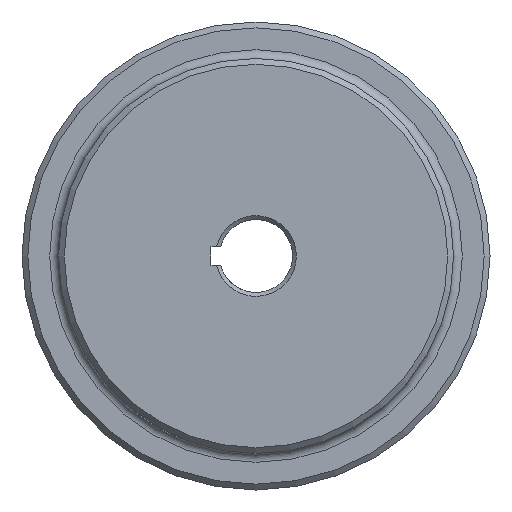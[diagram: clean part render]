
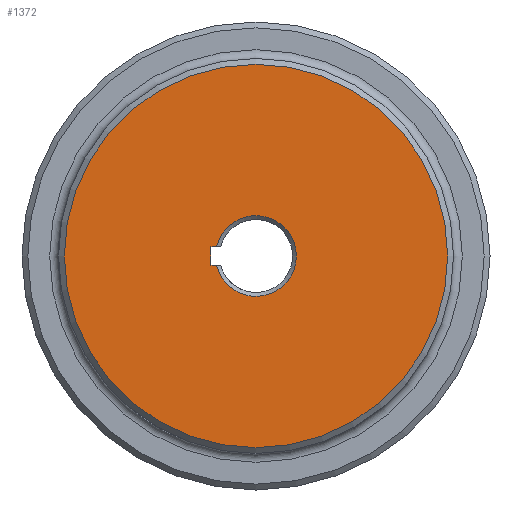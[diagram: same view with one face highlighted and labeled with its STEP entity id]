
A CAD part, left-side view. The second image highlights one B-rep face of the part: STEP entity #1372.
In plain terms, the highlighted planar face has unit normal (-1, 0, 0).
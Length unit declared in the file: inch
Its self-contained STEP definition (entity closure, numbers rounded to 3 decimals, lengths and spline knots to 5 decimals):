
#55 = DIRECTION ( 'NONE',  ( -1., 0., 0. ) ) ;
#97 = VECTOR ( 'NONE', #1086, 39.37008 ) ;
#314 = ORIENTED_EDGE ( 'NONE', *, *, #1455, .F. ) ;
#324 = CIRCLE ( 'NONE', #1008, 0.41515 ) ;
#329 = CARTESIAN_POINT ( 'NONE',  ( 0., 0., 0. ) ) ;
#371 = VECTOR ( 'NONE', #1406, 39.37008 ) ;
#415 = LINE ( 'NONE', #925, #371 ) ;
#557 = CARTESIAN_POINT ( 'NONE',  ( 0., 0.40448, -0.0935 ) ) ;
#583 = FACE_BOUND ( 'NONE', #1958, .T. ) ;
#594 = LINE ( 'NONE', #1790, #97 ) ;
#688 = CARTESIAN_POINT ( 'NONE',  ( 0., 0.40448, 0.0935 ) ) ;
#693 = CIRCLE ( 'NONE', #1732, 1.97 ) ;
#902 = CARTESIAN_POINT ( 'NONE',  ( 0., 0.46285, -0.0935 ) ) ;
#925 = CARTESIAN_POINT ( 'NONE',  ( 0., 0., 0.0935 ) ) ;
#1008 = AXIS2_PLACEMENT_3D ( 'NONE', #1168, #1077, #1023 ) ;
#1012 = ORIENTED_EDGE ( 'NONE', *, *, #2563, .F. ) ;
#1023 = DIRECTION ( 'NONE',  ( 0., 0., -1. ) ) ;
#1067 = EDGE_LOOP ( 'NONE', ( #1108 ) ) ;
#1077 = DIRECTION ( 'NONE',  ( 1., 0., 0. ) ) ;
#1086 = DIRECTION ( 'NONE',  ( 0., -1., 0. ) ) ;
#1108 = ORIENTED_EDGE ( 'NONE', *, *, #2704, .T. ) ;
#1122 = PLANE ( 'NONE',  #2467 ) ;
#1168 = CARTESIAN_POINT ( 'NONE',  ( 0., 0., 0. ) ) ;
#1176 = CARTESIAN_POINT ( 'NONE',  ( 0., 0., -1.97 ) ) ;
#1209 = VERTEX_POINT ( 'NONE', #1771 ) ;
#1222 = EDGE_CURVE ( 'NONE', #1209, #2807, #2557, .T. ) ;
#1372 = ADVANCED_FACE ( 'NONE', ( #2022, #583 ), #1122, .F. ) ;
#1403 = VERTEX_POINT ( 'NONE', #688 ) ;
#1406 = DIRECTION ( 'NONE',  ( 0., 1., 0. ) ) ;
#1455 = EDGE_CURVE ( 'NONE', #1403, #1209, #415, .T. ) ;
#1594 = VERTEX_POINT ( 'NONE', #1176 ) ;
#1612 = ORIENTED_EDGE ( 'NONE', *, *, #1684, .T. ) ;
#1630 = DIRECTION ( 'NONE',  ( 0., 0., -1. ) ) ;
#1684 = EDGE_CURVE ( 'NONE', #1403, #1845, #324, .T. ) ;
#1732 = AXIS2_PLACEMENT_3D ( 'NONE', #2207, #55, #1748 ) ;
#1737 = VECTOR ( 'NONE', #2229, 39.37008 ) ;
#1748 = DIRECTION ( 'NONE',  ( 0., 0., -1. ) ) ;
#1771 = CARTESIAN_POINT ( 'NONE',  ( 0., 0.46285, 0.0935 ) ) ;
#1790 = CARTESIAN_POINT ( 'NONE',  ( 0., 0., -0.0935 ) ) ;
#1845 = VERTEX_POINT ( 'NONE', #557 ) ;
#1908 = ORIENTED_EDGE ( 'NONE', *, *, #1222, .F. ) ;
#1958 = EDGE_LOOP ( 'NONE', ( #314, #1612, #1012, #1908 ) ) ;
#2022 = FACE_OUTER_BOUND ( 'NONE', #1067, .T. ) ;
#2207 = CARTESIAN_POINT ( 'NONE',  ( 0., 0., 0. ) ) ;
#2229 = DIRECTION ( 'NONE',  ( 0., 0., -1. ) ) ;
#2467 = AXIS2_PLACEMENT_3D ( 'NONE', #329, #2479, #1630 ) ;
#2479 = DIRECTION ( 'NONE',  ( 1., 0., 0. ) ) ;
#2557 = LINE ( 'NONE', #2820, #1737 ) ;
#2563 = EDGE_CURVE ( 'NONE', #2807, #1845, #594, .T. ) ;
#2704 = EDGE_CURVE ( 'NONE', #1594, #1594, #693, .T. ) ;
#2807 = VERTEX_POINT ( 'NONE', #902 ) ;
#2820 = CARTESIAN_POINT ( 'NONE',  ( 0., 0.46285, -0.0935 ) ) ;
